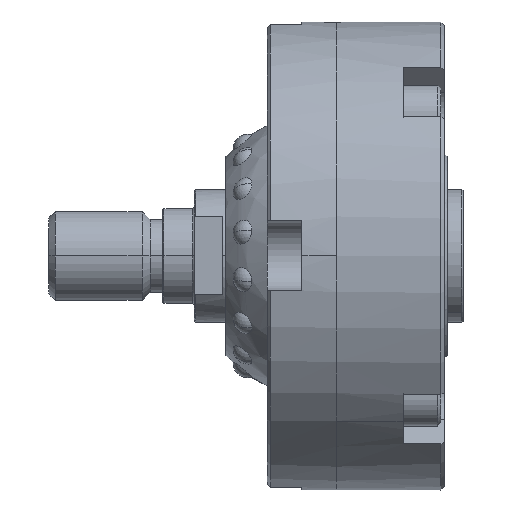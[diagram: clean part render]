
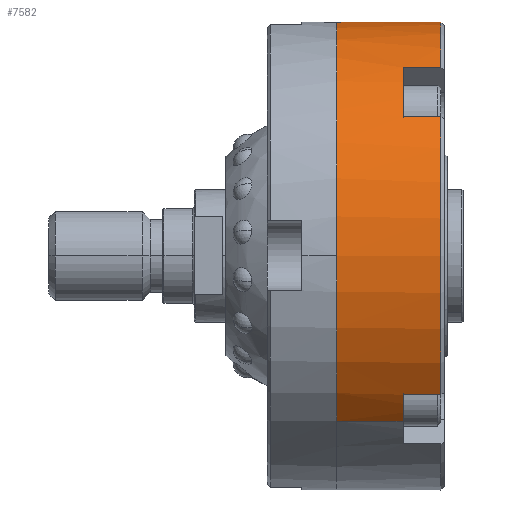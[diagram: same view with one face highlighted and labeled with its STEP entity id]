
A CAD part, top view. The second image highlights one B-rep face of the part: STEP entity #7582.
In plain terms, the highlighted cylindrical face has radius 37 mm (diameter 74 mm), a partial arc.
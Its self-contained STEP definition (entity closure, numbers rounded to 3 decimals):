
#178 = EDGE_CURVE ( 'NONE', #10885, #21349, #6726, .T. ) ;
#182 = DIRECTION ( 'NONE',  ( -1., 0., 0. ) ) ;
#584 = DIRECTION ( 'NONE',  ( 0., -0.707, 0.707 ) ) ;
#611 = CARTESIAN_POINT ( 'NONE',  ( 16.5, 29.761, -21.983 ) ) ;
#612 = CYLINDRICAL_SURFACE ( 'NONE', #10052, 37. ) ;
#621 = ORIENTED_EDGE ( 'NONE', *, *, #4423, .T. ) ;
#792 = CARTESIAN_POINT ( 'NONE',  ( 10.5, 0., 0. ) ) ;
#1127 = CARTESIAN_POINT ( 'NONE',  ( 0., 0., 37. ) ) ;
#1372 = EDGE_CURVE ( 'NONE', #21349, #3903, #9748, .T. ) ;
#1525 = LINE ( 'NONE', #18275, #20011 ) ;
#1663 = AXIS2_PLACEMENT_3D ( 'NONE', #19155, #7816, #2737 ) ;
#1679 = CIRCLE ( 'NONE', #15849, 37. ) ;
#1837 = LINE ( 'NONE', #15751, #16750 ) ;
#1839 = ORIENTED_EDGE ( 'NONE', *, *, #178, .T. ) ;
#2138 = DIRECTION ( 'NONE',  ( 0., -0.707, 0.707 ) ) ;
#2169 = CARTESIAN_POINT ( 'NONE',  ( 0., 26.163, -26.163 ) ) ;
#2213 = ORIENTED_EDGE ( 'NONE', *, *, #13892, .T. ) ;
#2236 = DIRECTION ( 'NONE',  ( -1., 0., 0. ) ) ;
#2311 = EDGE_CURVE ( 'NONE', #19166, #14745, #4233, .T. ) ;
#2528 = AXIS2_PLACEMENT_3D ( 'NONE', #14100, #15411, #584 ) ;
#2651 = DIRECTION ( 'NONE',  ( 0., 0.707, -0.707 ) ) ;
#2737 = DIRECTION ( 'NONE',  ( 0., -0.707, 0.707 ) ) ;
#3365 = CARTESIAN_POINT ( 'NONE',  ( 16.5, 21.983, 29.761 ) ) ;
#3388 = DIRECTION ( 'NONE',  ( -1., 0., 0. ) ) ;
#3440 = EDGE_CURVE ( 'NONE', #5259, #18654, #5009, .T. ) ;
#3524 = VERTEX_POINT ( 'NONE', #4125 ) ;
#3903 = VERTEX_POINT ( 'NONE', #3365 ) ;
#4125 = CARTESIAN_POINT ( 'NONE',  ( 10.5, 29.761, 21.983 ) ) ;
#4233 = CIRCLE ( 'NONE', #2528, 37. ) ;
#4328 = ORIENTED_EDGE ( 'NONE', *, *, #7318, .F. ) ;
#4423 = EDGE_CURVE ( 'NONE', #14745, #5915, #16640, .T. ) ;
#4566 = CARTESIAN_POINT ( 'NONE',  ( 0., 26.163, -26.163 ) ) ;
#4768 = EDGE_LOOP ( 'NONE', ( #8421, #7974, #14641, #4328, #18789, #13390, #1839, #15780, #17361, #10583, #2213, #19864, #621 ) ) ;
#4968 = DIRECTION ( 'NONE',  ( -1., 0., 0. ) ) ;
#4994 = DIRECTION ( 'NONE',  ( 1., 0., 0. ) ) ;
#5009 = LINE ( 'NONE', #11592, #14968 ) ;
#5172 = FACE_OUTER_BOUND ( 'NONE', #4768, .T. ) ;
#5198 = AXIS2_PLACEMENT_3D ( 'NONE', #792, #6000, #2651 ) ;
#5259 = VERTEX_POINT ( 'NONE', #14178 ) ;
#5466 = CARTESIAN_POINT ( 'NONE',  ( 10.5, 21.983, 29.761 ) ) ;
#5915 = VERTEX_POINT ( 'NONE', #19899 ) ;
#6000 = DIRECTION ( 'NONE',  ( 1., 0., 0. ) ) ;
#6726 = LINE ( 'NONE', #18584, #20771 ) ;
#6834 = VECTOR ( 'NONE', #19821, 1000. ) ;
#7318 = EDGE_CURVE ( 'NONE', #18654, #17062, #12834, .T. ) ;
#7582 = ADVANCED_FACE ( 'NONE', ( #5172 ), #612, .T. ) ;
#7816 = DIRECTION ( 'NONE',  ( -1., 0., 0. ) ) ;
#7974 = ORIENTED_EDGE ( 'NONE', *, *, #9438, .T. ) ;
#8188 = VERTEX_POINT ( 'NONE', #5466 ) ;
#8421 = ORIENTED_EDGE ( 'NONE', *, *, #11606, .F. ) ;
#8950 = CARTESIAN_POINT ( 'NONE',  ( 16.5, -21.983, 29.761 ) ) ;
#9187 = DIRECTION ( 'NONE',  ( 0., 0.707, -0.707 ) ) ;
#9438 = EDGE_CURVE ( 'NONE', #16942, #13062, #13226, .T. ) ;
#9584 = CARTESIAN_POINT ( 'NONE',  ( 16.5, 0., 0. ) ) ;
#9748 = CIRCLE ( 'NONE', #12507, 37. ) ;
#9959 = DIRECTION ( 'NONE',  ( 1., 0., 0. ) ) ;
#10052 = AXIS2_PLACEMENT_3D ( 'NONE', #11758, #20190, #2138 ) ;
#10384 = CIRCLE ( 'NONE', #17619, 37. ) ;
#10450 = CARTESIAN_POINT ( 'NONE',  ( 10.5, 26.163, -26.163 ) ) ;
#10583 = ORIENTED_EDGE ( 'NONE', *, *, #15103, .F. ) ;
#10721 = CARTESIAN_POINT ( 'NONE',  ( 0., -26.163, 26.163 ) ) ;
#10730 = EDGE_CURVE ( 'NONE', #17062, #13062, #13730, .T. ) ;
#10885 = VERTEX_POINT ( 'NONE', #12992 ) ;
#11592 = CARTESIAN_POINT ( 'NONE',  ( 0., -26.163, 26.163 ) ) ;
#11606 = EDGE_CURVE ( 'NONE', #16942, #5915, #1679, .T. ) ;
#11758 = CARTESIAN_POINT ( 'NONE',  ( 0., 0., 0. ) ) ;
#12279 = CARTESIAN_POINT ( 'NONE',  ( 10.5, 0., 0. ) ) ;
#12494 = AXIS2_PLACEMENT_3D ( 'NONE', #17926, #4968, #19549 ) ;
#12507 = AXIS2_PLACEMENT_3D ( 'NONE', #9584, #17904, #14341 ) ;
#12742 = DIRECTION ( 'NONE',  ( 1., 0., 0. ) ) ;
#12834 = CIRCLE ( 'NONE', #12494, 37. ) ;
#12992 = CARTESIAN_POINT ( 'NONE',  ( 10.5, -21.983, 29.761 ) ) ;
#13062 = VERTEX_POINT ( 'NONE', #4566 ) ;
#13226 = LINE ( 'NONE', #2169, #6834 ) ;
#13390 = ORIENTED_EDGE ( 'NONE', *, *, #14825, .F. ) ;
#13568 = VECTOR ( 'NONE', #182, 1000. ) ;
#13730 = CIRCLE ( 'NONE', #1663, 37. ) ;
#13892 = EDGE_CURVE ( 'NONE', #3524, #19166, #1525, .T. ) ;
#14100 = CARTESIAN_POINT ( 'NONE',  ( 16.5, 0., 0. ) ) ;
#14178 = CARTESIAN_POINT ( 'NONE',  ( 10.5, -26.163, 26.163 ) ) ;
#14341 = DIRECTION ( 'NONE',  ( 0., -0.707, 0.707 ) ) ;
#14641 = ORIENTED_EDGE ( 'NONE', *, *, #10730, .F. ) ;
#14745 = VERTEX_POINT ( 'NONE', #611 ) ;
#14825 = EDGE_CURVE ( 'NONE', #10885, #5259, #17965, .T. ) ;
#14968 = VECTOR ( 'NONE', #3388, 1000. ) ;
#15103 = EDGE_CURVE ( 'NONE', #3524, #8188, #10384, .T. ) ;
#15411 = DIRECTION ( 'NONE',  ( -1., 0., 0. ) ) ;
#15421 = DIRECTION ( 'NONE',  ( 1., 0., 0. ) ) ;
#15751 = CARTESIAN_POINT ( 'NONE',  ( 0., 21.983, 29.761 ) ) ;
#15780 = ORIENTED_EDGE ( 'NONE', *, *, #1372, .T. ) ;
#15849 = AXIS2_PLACEMENT_3D ( 'NONE', #12279, #15421, #18869 ) ;
#16526 = CARTESIAN_POINT ( 'NONE',  ( 0., 29.761, -21.983 ) ) ;
#16640 = LINE ( 'NONE', #16526, #13568 ) ;
#16750 = VECTOR ( 'NONE', #2236, 1000. ) ;
#16942 = VERTEX_POINT ( 'NONE', #10450 ) ;
#17062 = VERTEX_POINT ( 'NONE', #1127 ) ;
#17361 = ORIENTED_EDGE ( 'NONE', *, *, #21326, .T. ) ;
#17619 = AXIS2_PLACEMENT_3D ( 'NONE', #20945, #12742, #9187 ) ;
#17904 = DIRECTION ( 'NONE',  ( -1., 0., 0. ) ) ;
#17926 = CARTESIAN_POINT ( 'NONE',  ( 0., 0., 0. ) ) ;
#17965 = CIRCLE ( 'NONE', #5198, 37. ) ;
#18275 = CARTESIAN_POINT ( 'NONE',  ( 0., 29.761, 21.983 ) ) ;
#18466 = CARTESIAN_POINT ( 'NONE',  ( 16.5, 29.761, 21.983 ) ) ;
#18584 = CARTESIAN_POINT ( 'NONE',  ( 0., -21.983, 29.761 ) ) ;
#18654 = VERTEX_POINT ( 'NONE', #10721 ) ;
#18789 = ORIENTED_EDGE ( 'NONE', *, *, #3440, .F. ) ;
#18869 = DIRECTION ( 'NONE',  ( 0., 0.707, -0.707 ) ) ;
#19155 = CARTESIAN_POINT ( 'NONE',  ( 0., 0., 0. ) ) ;
#19166 = VERTEX_POINT ( 'NONE', #18466 ) ;
#19549 = DIRECTION ( 'NONE',  ( 0., -0.707, 0.707 ) ) ;
#19821 = DIRECTION ( 'NONE',  ( -1., 0., 0. ) ) ;
#19864 = ORIENTED_EDGE ( 'NONE', *, *, #2311, .T. ) ;
#19899 = CARTESIAN_POINT ( 'NONE',  ( 10.5, 29.761, -21.983 ) ) ;
#20011 = VECTOR ( 'NONE', #4994, 1000. ) ;
#20190 = DIRECTION ( 'NONE',  ( -1., 0., 0. ) ) ;
#20771 = VECTOR ( 'NONE', #9959, 1000. ) ;
#20945 = CARTESIAN_POINT ( 'NONE',  ( 10.5, 0., 0. ) ) ;
#21326 = EDGE_CURVE ( 'NONE', #3903, #8188, #1837, .T. ) ;
#21349 = VERTEX_POINT ( 'NONE', #8950 ) ;
